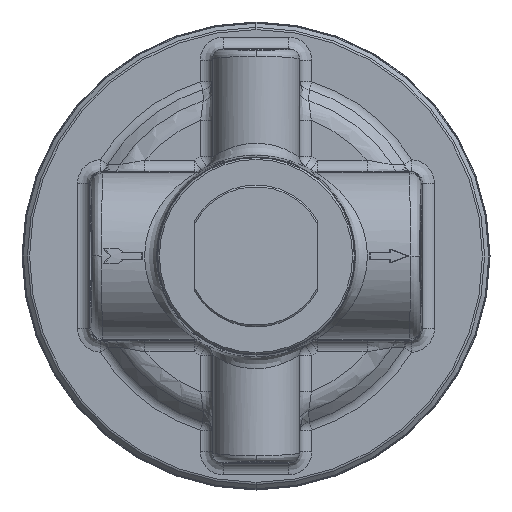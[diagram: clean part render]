
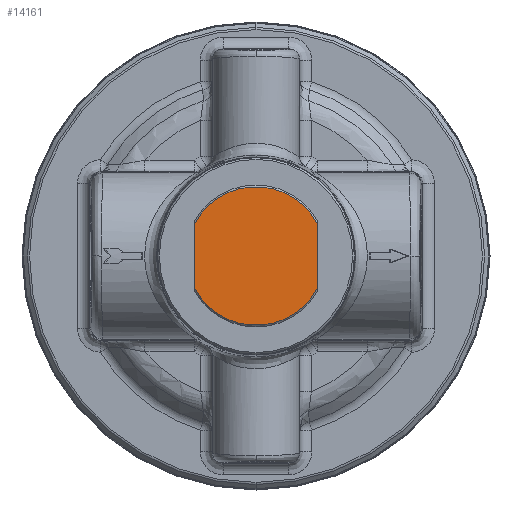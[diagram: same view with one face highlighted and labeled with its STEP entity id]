
A CAD part, front view. The second image highlights one B-rep face of the part: STEP entity #14161.
In plain terms, the highlighted planar face has unit normal (0, -1, 0).
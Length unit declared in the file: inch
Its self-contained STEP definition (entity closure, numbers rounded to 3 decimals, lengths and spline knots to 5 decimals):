
#7873 = EDGE_LOOP ( 'NONE', ( #11281, #11282, #11283, #11284 ) ) ;
#11281 = ORIENTED_EDGE ( 'NONE', *, *, #13799, .T. ) ;
#11282 = ORIENTED_EDGE ( 'NONE', *, *, #13798, .T. ) ;
#11283 = ORIENTED_EDGE ( 'NONE', *, *, #13800, .F. ) ;
#11284 = ORIENTED_EDGE ( 'NONE', *, *, #13794, .T. ) ;
#11955 = VERTEX_POINT ( 'NONE', #32169 ) ;
#11976 = VERTEX_POINT ( 'NONE', #32190 ) ;
#11978 = VERTEX_POINT ( 'NONE', #32192 ) ;
#11980 = VERTEX_POINT ( 'NONE', #32194 ) ;
#13794 = EDGE_CURVE ( 'NONE', #11955, #11976, #37684, .T. ) ;
#13798 = EDGE_CURVE ( 'NONE', #11978, #11980, #37693, .T. ) ;
#13799 = EDGE_CURVE ( 'NONE', #11976, #11978, #38261, .T. ) ;
#13800 = EDGE_CURVE ( 'NONE', #11955, #11980, #38286, .T. ) ;
#14161 = ADVANCED_FACE ( 'NONE', ( #39926 ), #39927, .F. ) ;
#32169 = CARTESIAN_POINT ( 'NONE',  ( -0.62, -2.792, -0.32442 ) ) ;
#32190 = CARTESIAN_POINT ( 'NONE',  ( 0.62, -2.792, -0.32442 ) ) ;
#32192 = CARTESIAN_POINT ( 'NONE',  ( 0.62, -2.792, 0.32442 ) ) ;
#32194 = CARTESIAN_POINT ( 'NONE',  ( -0.62, -2.792, 0.32442 ) ) ;
#37684 = CIRCLE ( 'NONE', #37690, 0.69975 ) ;
#37686 = VECTOR ( 'NONE', #38285, 39.37008 ) ;
#37690 = AXIS2_PLACEMENT_3D ( 'NONE', #38269, #38270, #38271 ) ;
#37693 = CIRCLE ( 'NONE', #37694, 0.69975 ) ;
#37694 = AXIS2_PLACEMENT_3D ( 'NONE', #38282, #38283, #38284 ) ;
#37695 = VECTOR ( 'NONE', #38288, 39.37008 ) ;
#38261 = LINE ( 'NONE', #38279, #37686 ) ;
#38269 = CARTESIAN_POINT ( 'NONE',  ( 0., -2.792, 0. ) ) ;
#38270 = DIRECTION ( 'NONE',  ( 0., -1., 0. ) ) ;
#38271 = DIRECTION ( 'NONE',  ( 1., 0., 0. ) ) ;
#38279 = CARTESIAN_POINT ( 'NONE',  ( 0.62, -2.792, 0. ) ) ;
#38282 = CARTESIAN_POINT ( 'NONE',  ( 0., -2.792, 0. ) ) ;
#38283 = DIRECTION ( 'NONE',  ( 0., -1., 0. ) ) ;
#38284 = DIRECTION ( 'NONE',  ( 1., 0., 0. ) ) ;
#38285 = DIRECTION ( 'NONE',  ( 0., 0., 1. ) ) ;
#38286 = LINE ( 'NONE', #38287, #37695 ) ;
#38287 = CARTESIAN_POINT ( 'NONE',  ( -0.62, -2.792, 0. ) ) ;
#38288 = DIRECTION ( 'NONE',  ( 0., 0., 1. ) ) ;
#39924 = CARTESIAN_POINT ( 'NONE',  ( 0., -2.792, 0. ) ) ;
#39926 = FACE_OUTER_BOUND ( 'NONE', #7873, .T. ) ;
#39927 = PLANE ( 'NONE',  #40396 ) ;
#39930 = DIRECTION ( 'NONE',  ( 0., 1., 0. ) ) ;
#39931 = DIRECTION ( 'NONE',  ( 1., 0., 0. ) ) ;
#40396 = AXIS2_PLACEMENT_3D ( 'NONE', #39924, #39930, #39931 ) ;
